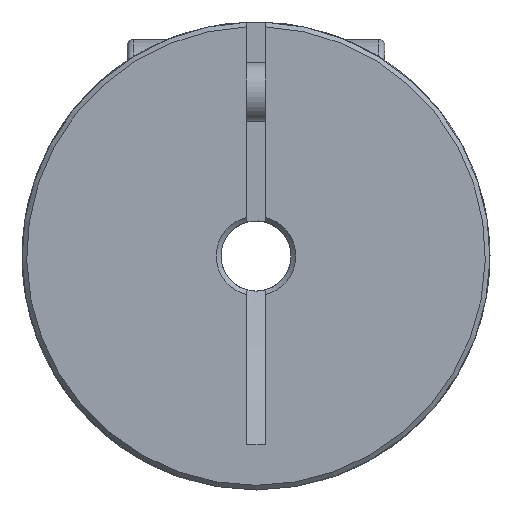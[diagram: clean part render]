
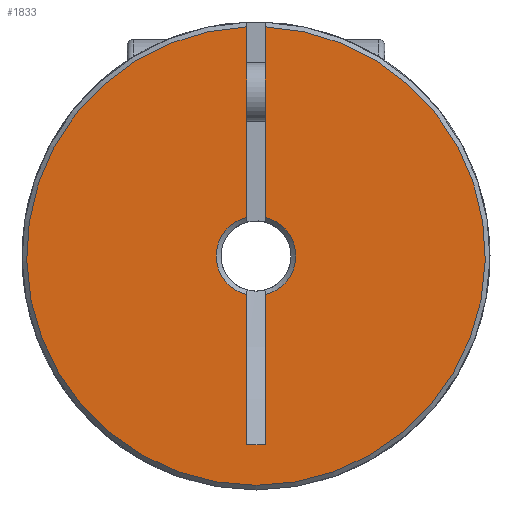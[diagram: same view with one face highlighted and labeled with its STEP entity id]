
A CAD part, left-side view. The second image highlights one B-rep face of the part: STEP entity #1833.
In plain terms, the highlighted planar face has unit normal (-1, 0, 0).
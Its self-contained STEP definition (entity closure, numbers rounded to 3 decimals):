
#122=LINE('',#2979,#200);
#123=LINE('',#2987,#201);
#126=LINE('',#3003,#204);
#129=LINE('',#3014,#207);
#131=LINE('',#3030,#209);
#200=VECTOR('',#2297,1000.);
#201=VECTOR('',#2300,1000.);
#204=VECTOR('',#2309,1000.);
#207=VECTOR('',#2314,1000.);
#209=VECTOR('',#2320,1000.);
#345=ORIENTED_EDGE('',*,*,#787,.T.);
#346=ORIENTED_EDGE('',*,*,#758,.F.);
#347=ORIENTED_EDGE('',*,*,#763,.F.);
#348=ORIENTED_EDGE('',*,*,#748,.T.);
#349=ORIENTED_EDGE('',*,*,#788,.T.);
#350=ORIENTED_EDGE('',*,*,#746,.T.);
#351=ORIENTED_EDGE('',*,*,#789,.F.);
#352=ORIENTED_EDGE('',*,*,#754,.F.);
#746=EDGE_CURVE('',#966,#970,#122,.T.);
#748=EDGE_CURVE('',#973,#971,#123,.T.);
#754=EDGE_CURVE('',#978,#979,#126,.T.);
#758=EDGE_CURVE('',#982,#983,#129,.T.);
#763=EDGE_CURVE('',#973,#982,#131,.T.);
#787=EDGE_CURVE('',#978,#983,#1139,.T.);
#788=EDGE_CURVE('',#971,#966,#1140,.T.);
#789=EDGE_CURVE('',#979,#970,#1141,.T.);
#966=VERTEX_POINT('',#2967);
#970=VERTEX_POINT('',#2978);
#971=VERTEX_POINT('',#2985);
#973=VERTEX_POINT('',#2988);
#978=VERTEX_POINT('',#3002);
#979=VERTEX_POINT('',#3004);
#982=VERTEX_POINT('',#3015);
#983=VERTEX_POINT('',#3016);
#1139=CIRCLE('',#2012,1.7);
#1140=CIRCLE('',#2013,1.7);
#1141=CIRCLE('',#2014,9.8);
#1274=EDGE_LOOP('',(#345,#346,#347,#348,#349,#350,#351,#352));
#1518=FACE_BOUND('',#1274,.T.);
#1747=PLANE('',#2011);
#1833=ADVANCED_FACE('',(#1518),#1747,.F.);
#2011=AXIS2_PLACEMENT_3D('',#3151,#2359,#2360);
#2012=AXIS2_PLACEMENT_3D('',#3152,#2361,#2362);
#2013=AXIS2_PLACEMENT_3D('',#3153,#2363,#2364);
#2014=AXIS2_PLACEMENT_3D('',#3154,#2365,#2366);
#2297=DIRECTION('',(0.,0.,1.));
#2300=DIRECTION('',(0.,0.,1.));
#2309=DIRECTION('',(0.,0.,1.));
#2314=DIRECTION('',(0.,0.,1.));
#2320=DIRECTION('',(0.,-1.,0.));
#2359=DIRECTION('',(1.,0.,0.));
#2360=DIRECTION('',(0.,0.,-1.));
#2361=DIRECTION('',(1.,0.,0.));
#2362=DIRECTION('',(0.,0.,-1.));
#2363=DIRECTION('',(1.,0.,0.));
#2364=DIRECTION('',(0.,0.,-1.));
#2365=DIRECTION('',(1.,0.,0.));
#2366=DIRECTION('',(0.,0.,-1.));
#2967=CARTESIAN_POINT('',(0.,0.4,1.652));
#2978=CARTESIAN_POINT('',(0.,0.4,9.792));
#2979=CARTESIAN_POINT('',(0.,0.4,-8.073));
#2985=CARTESIAN_POINT('',(0.,0.4,-1.652));
#2987=CARTESIAN_POINT('',(0.,0.4,-8.073));
#2988=CARTESIAN_POINT('',(0.,0.4,-8.073));
#3002=CARTESIAN_POINT('',(0.,-0.4,1.652));
#3003=CARTESIAN_POINT('',(0.,-0.4,-8.073));
#3004=CARTESIAN_POINT('',(0.,-0.4,9.792));
#3014=CARTESIAN_POINT('',(0.,-0.4,-8.073));
#3015=CARTESIAN_POINT('',(0.,-0.4,-8.073));
#3016=CARTESIAN_POINT('',(0.,-0.4,-1.652));
#3030=CARTESIAN_POINT('',(0.,0.4,-8.073));
#3151=CARTESIAN_POINT('',(0.,0.,0.));
#3152=CARTESIAN_POINT('',(0.,0.,0.));
#3153=CARTESIAN_POINT('',(0.,0.,0.));
#3154=CARTESIAN_POINT('',(0.,0.,0.));
